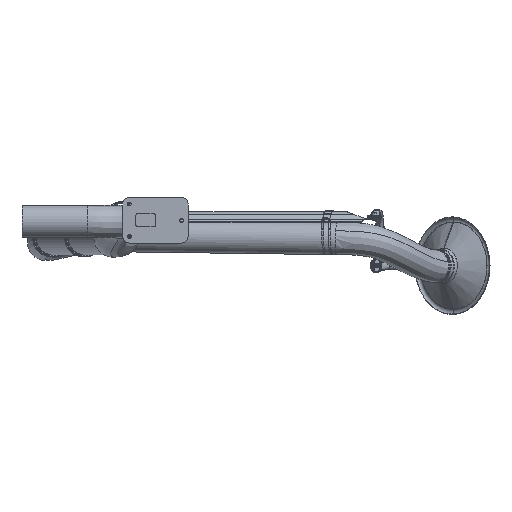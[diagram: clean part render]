
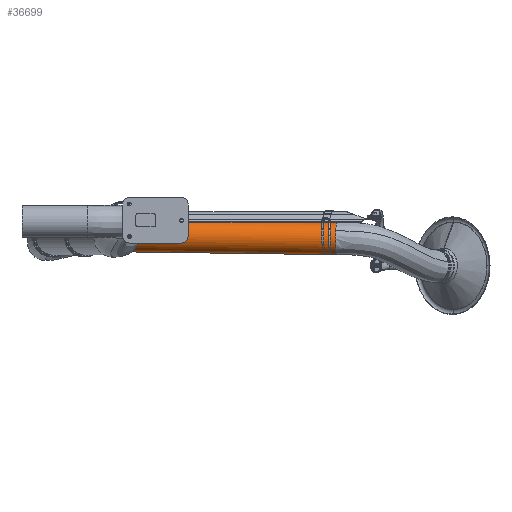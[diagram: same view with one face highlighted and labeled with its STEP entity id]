
A CAD part, left-side view. The second image highlights one B-rep face of the part: STEP entity #36699.
In plain terms, the highlighted free-form (B-spline) face has degree [3, 3] with [7, 6] control points.
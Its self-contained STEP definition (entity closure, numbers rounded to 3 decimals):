
#35670=CARTESIAN_POINT('',(1148.758,-583.109,
-101.696));
#35671=CARTESIAN_POINT('',(1148.758,-502.776,
-100.618));
#35672=CARTESIAN_POINT('',(1148.758,-342.109,
-98.462));
#35673=CARTESIAN_POINT('',(1148.758,-101.109,
-95.229));
#35674=CARTESIAN_POINT('',(1148.758,59.557,
-93.073));
#35675=CARTESIAN_POINT('',(1148.758,139.891,
-91.996));
#35680=CARTESIAN_POINT('',(1148.758,-583.78,-51.7));
#35681=DIRECTION('',(0.,-1.,-0.013));
#35682=DIRECTION('',(0.,-0.013,1.));
#35683=AXIS2_PLACEMENT_3D('',#35680,#35681,#35682);
#35688=CARTESIAN_POINT('',(1148.758,-583.78,-51.7));
#35689=DIRECTION('',(0.,-1.,-0.013));
#35690=DIRECTION('',(-0.88,-0.006,0.475));
#35691=AXIS2_PLACEMENT_3D('',#35688,#35689,#35690);
#35712=CARTESIAN_POINT('',(1148.758,-584.451,
-1.704));
#35713=CARTESIAN_POINT('',(1148.758,-504.118,
-0.627));
#35714=CARTESIAN_POINT('',(1148.758,-343.451,
1.529));
#35715=CARTESIAN_POINT('',(1148.758,-102.451,
4.762));
#35716=CARTESIAN_POINT('',(1148.758,58.216,6.918));
#35717=CARTESIAN_POINT('',(1148.758,138.549,7.996));
#36023=CARTESIAN_POINT('',(1148.758,139.22,-42.));
#36024=DIRECTION('',(0.,1.,0.013));
#36025=DIRECTION('',(0.,0.013,-1.));
#36026=AXIS2_PLACEMENT_3D('',#36023,#36024,#36025);
#36604=CARTESIAN_POINT('',(1148.758,139.891,
-91.996));
#36605=CARTESIAN_POINT('',(1148.758,138.549,7.996));
#36606=VERTEX_POINT('',#36604);
#36607=VERTEX_POINT('',#36605);
#36630=VERTEX_POINT('',#35670);
#36631=VERTEX_POINT('',#35712);
#36640=CARTESIAN_POINT('',(1104.755,-584.099,
-27.959));
#36641=VERTEX_POINT('',#36640);
#36644=CARTESIAN_POINT('',(1151.898,-597.571,
-101.791));
#36645=CARTESIAN_POINT('',(1151.898,-592.751,
-101.726));
#36646=CARTESIAN_POINT('',(1151.898,-346.931,
-98.428));
#36647=CARTESIAN_POINT('',(1151.898,-96.291,
-95.066));
#36648=CARTESIAN_POINT('',(1151.898,149.529,
-91.768));
#36649=CARTESIAN_POINT('',(1151.898,154.349,
-91.703));
#36650=CARTESIAN_POINT('',(1121.189,-597.545,
-103.723));
#36651=CARTESIAN_POINT('',(1121.189,-592.725,
-103.658));
#36652=CARTESIAN_POINT('',(1121.189,-346.905,
-100.36));
#36653=CARTESIAN_POINT('',(1121.189,-96.265,
-96.997));
#36654=CARTESIAN_POINT('',(1121.189,149.555,
-93.699));
#36655=CARTESIAN_POINT('',(1121.189,154.375,
-93.635));
#36656=CARTESIAN_POINT('',(1098.758,-597.827,
-82.661));
#36657=CARTESIAN_POINT('',(1098.758,-593.007,
-82.596));
#36658=CARTESIAN_POINT('',(1098.758,-347.187,
-79.298));
#36659=CARTESIAN_POINT('',(1098.758,-96.547,
-75.936));
#36660=CARTESIAN_POINT('',(1098.758,149.273,
-72.638));
#36661=CARTESIAN_POINT('',(1098.758,154.093,
-72.573));
#36662=CARTESIAN_POINT('',(1098.758,-598.24,-51.894));
#36663=CARTESIAN_POINT('',(1098.758,-593.42,
-51.829));
#36664=CARTESIAN_POINT('',(1098.758,-347.6,
-48.531));
#36665=CARTESIAN_POINT('',(1098.758,-96.96,
-45.169));
#36666=CARTESIAN_POINT('',(1098.758,148.86,
-41.871));
#36667=CARTESIAN_POINT('',(1098.758,153.68,-41.806));
#36668=CARTESIAN_POINT('',(1098.758,-598.653,
-21.127));
#36669=CARTESIAN_POINT('',(1098.758,-593.833,
-21.062));
#36670=CARTESIAN_POINT('',(1098.758,-348.013,
-17.764));
#36671=CARTESIAN_POINT('',(1098.758,-97.373,
-14.402));
#36672=CARTESIAN_POINT('',(1098.758,148.447,
-11.104));
#36673=CARTESIAN_POINT('',(1098.758,153.267,
-11.039));
#36674=CARTESIAN_POINT('',(1121.189,-598.935,
-0.065));
#36675=CARTESIAN_POINT('',(1121.189,-594.115,
-0.001));
#36676=CARTESIAN_POINT('',(1121.189,-348.295,
3.297));
#36677=CARTESIAN_POINT('',(1121.189,-97.655,
6.66));
#36678=CARTESIAN_POINT('',(1121.189,148.165,9.958));
#36679=CARTESIAN_POINT('',(1121.189,152.985,10.023));
#36680=CARTESIAN_POINT('',(1151.898,-598.91,
-1.997));
#36681=CARTESIAN_POINT('',(1151.898,-594.09,
-1.932));
#36682=CARTESIAN_POINT('',(1151.898,-348.27,
1.366));
#36683=CARTESIAN_POINT('',(1151.898,-97.63,
4.728));
#36684=CARTESIAN_POINT('',(1151.898,148.19,8.026));
#36685=CARTESIAN_POINT('',(1151.898,153.01,8.091));
#36686=(BOUNDED_SURFACE()B_SPLINE_SURFACE(3,3,((#36644,#36645,#36646,#36647,
#36648,#36649),(#36650,#36651,#36652,#36653,#36654,#36655),(#36656,#36657,
#36658,#36659,#36660,#36661),(#36662,#36663,#36664,#36665,#36666,#36667),
(#36668,#36669,#36670,#36671,#36672,#36673),(#36674,#36675,#36676,#36677,#36678,
#36679),(#36680,#36681,#36682,#36683,#36684,#36685)),.UNSPECIFIED.,.F.,.F.,.F.)B_SPLINE_SURFACE_WITH_KNOTS((4,3,4),(4,1,1,4),(0.,1.,2.),(-0.02,0.,1.,
1.02),.UNSPECIFIED.)GEOMETRIC_REPRESENTATION_ITEM()RATIONAL_B_SPLINE_SURFACE((
(1.187,1.187,1.187,1.187,
1.187,1.187),(0.938,0.938,
0.938,0.938,0.938,0.938),(
0.938,0.938,0.938,0.938,
0.938,0.938),(1.187,1.187,
1.187,1.187,1.187,1.187),(
0.938,0.938,0.938,0.938,
0.938,0.938),(0.938,0.938,
0.938,0.938,0.938,0.938),(
1.187,1.187,1.187,1.187,
1.187,1.187)))REPRESENTATION_ITEM('')SURFACE());
#36688=ORIENTED_EDGE('',*,*,#36687,.T.);
#36690=ORIENTED_EDGE('',*,*,#36689,.T.);
#36692=ORIENTED_EDGE('',*,*,#36691,.F.);
#36694=ORIENTED_EDGE('',*,*,#36693,.T.);
#36696=ORIENTED_EDGE('',*,*,#36695,.T.);
#36697=EDGE_LOOP('',(#36688,#36690,#36692,#36694,#36696));
#36698=FACE_OUTER_BOUND('',#36697,.F.);
#35676=B_SPLINE_CURVE_WITH_KNOTS('',3,(#35670,#35671,#35672,#35673,#35674,
#35675),.UNSPECIFIED.,.F.,.F.,(4,1,1,4),(0.,0.333,
0.667,1.),.UNSPECIFIED.);
#35684=CIRCLE('',#35683,50.);
#35692=CIRCLE('',#35691,50.);
#35718=B_SPLINE_CURVE_WITH_KNOTS('',3,(#35712,#35713,#35714,#35715,#35716,
#35717),.UNSPECIFIED.,.F.,.F.,(4,1,1,4),(0.,0.333,
0.667,1.),.UNSPECIFIED.);
#36027=CIRCLE('',#36026,50.);
#36687=EDGE_CURVE('',#36630,#36606,#35676,.T.);
#36689=EDGE_CURVE('',#36606,#36607,#36027,.T.);
#36691=EDGE_CURVE('',#36631,#36607,#35718,.T.);
#36693=EDGE_CURVE('',#36631,#36641,#35684,.T.);
#36695=EDGE_CURVE('',#36641,#36630,#35692,.T.);
#36699=ADVANCED_FACE('',(#36698),#36686,.T.);
